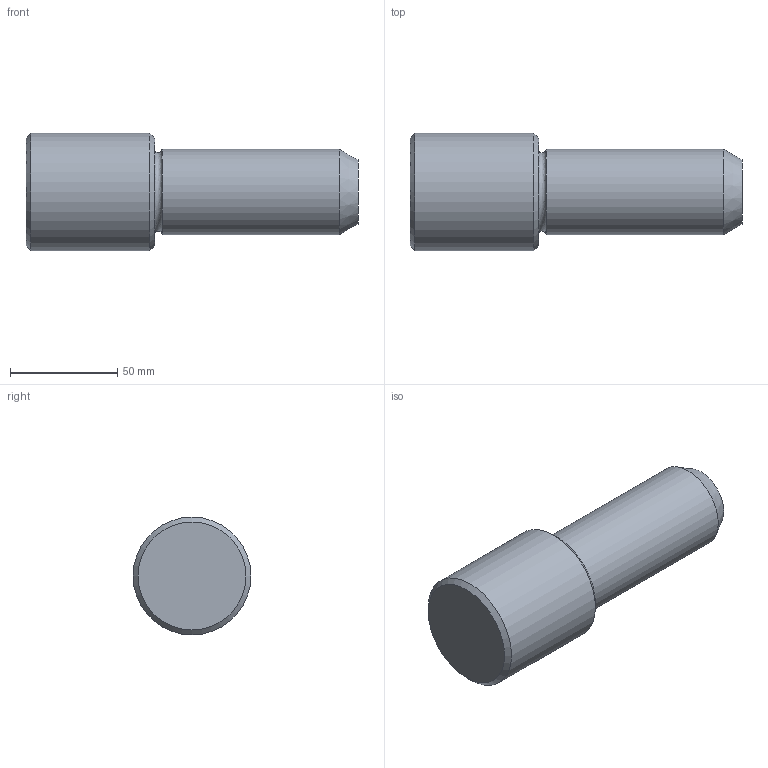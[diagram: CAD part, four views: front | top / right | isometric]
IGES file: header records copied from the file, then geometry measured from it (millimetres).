
Global section: file name: C340155.ipt; native system: Autodesk Inventor 2021; preprocessor: unknown; author: SM; date: 20211221.121105; units: millimetre
Bounding box: 155 x 55 x 55 mm (x, y, z)
Volume: 257943.8 mm3; surface area: 26248.8 mm2
Topology: 1 solids, 1 shells, 9 faces, 16 edges, 10 vertices
Faces by surface type: cone 3, plane 3, cylinder 2, revolution 1
Full cylindrical faces by diameter (mm): 40 x1, 55 x1
